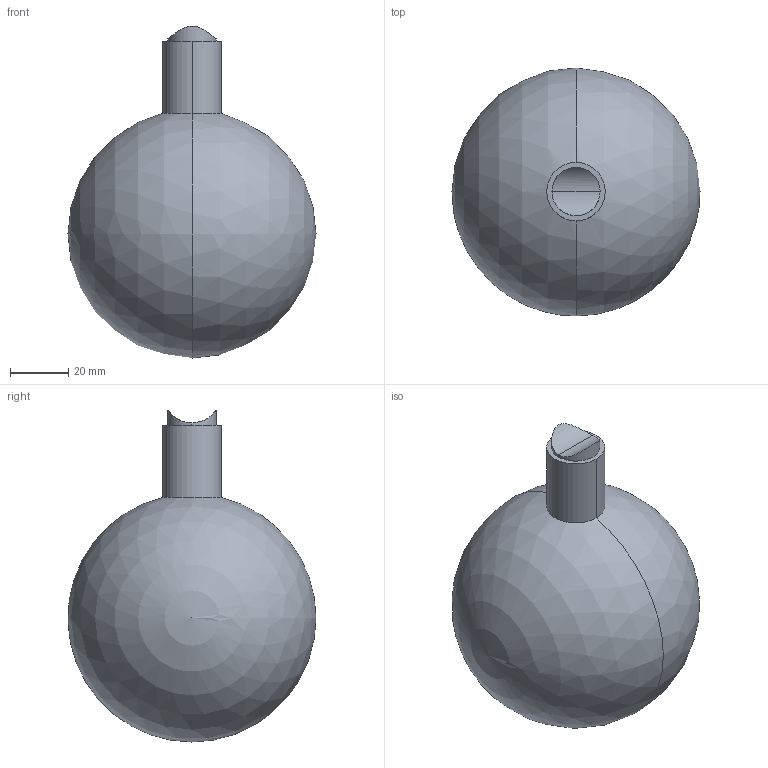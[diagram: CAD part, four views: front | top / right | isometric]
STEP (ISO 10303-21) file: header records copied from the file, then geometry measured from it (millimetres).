
FILE_DESCRIPTION (( 'STEP AP214' ), '1' );
FILE_NAME ('Globe 85.STEP', '2021-09-16T02:10:29', ( '' ), ( '' ), 'SwSTEP 2.0', 'SolidWorks 2017', '' );
FILE_SCHEMA (( 'AUTOMOTIVE_DESIGN' ));
Length unit declared in the file: millimetre
Products named in the file (1): Globe 85
Bounding box: 85 x 84.98 x 113.77 mm (x, y, z)
Volume: 34710.9 mm3; surface area: 48089.4 mm2
Topology: 3 solids, 3 shells, 21 faces, 45 edges, 28 vertices
Faces by surface type: cylinder 8, plane 5, sphere 4, cone 4
Entity records: 755 total; most frequent: CARTESIAN_POINT 177, DIRECTION 99, ORIENTED_EDGE 70, AXIS2_PLACEMENT_3D 44, EDGE_CURVE 35, EDGE_LOOP 23, CIRCLE 22, VERTEX_POINT 22
